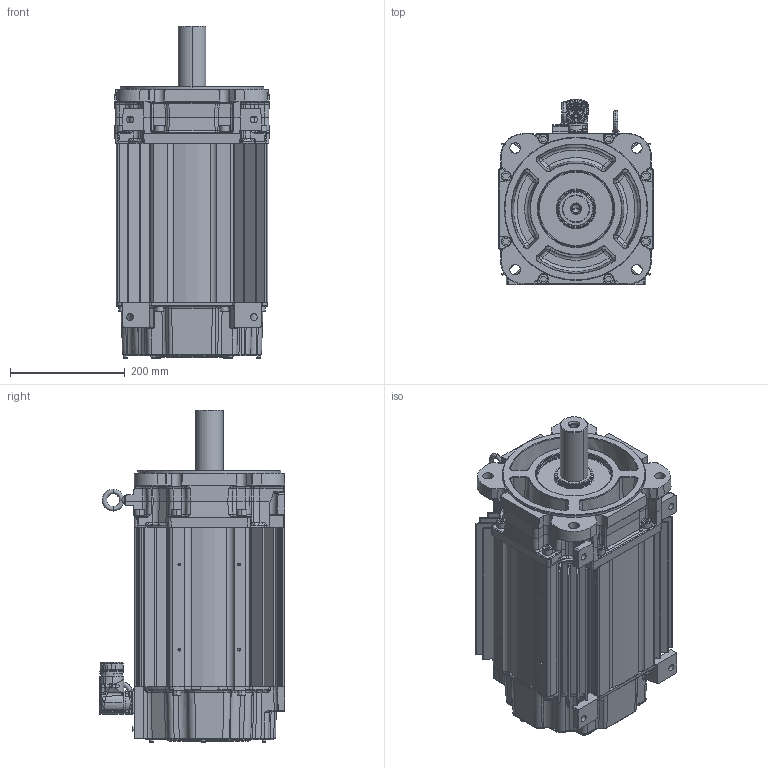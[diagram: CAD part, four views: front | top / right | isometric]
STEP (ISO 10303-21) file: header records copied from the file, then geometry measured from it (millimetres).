
FILE_DESCRIPTION((''),'2;1');
FILE_NAME('10005239751_ASM','2020-01-16T10:10:50',('VThimma'),('Rockwell Automation'),'CREO PARAMETRIC BY PTC INC, 2017380','CREO PARAMETRIC BY PTC INC, 2017380','');
FILE_SCHEMA(('CONFIG_CONTROL_DESIGN','SHAPE_APPEARANCE_LAYERS_GROUPS'));
Products named in the file (20): 10001441946; 10001404634_AF0; 10001404629_AF6; 10001404635_ASM; 10001585735; 10001441999_ASM; 10001439776_KEYLESS; 10001566079_ASM; 10001405269_AF27; 10001405369_ASM; 10001586887; 0002-5004; 10001609981; 10001737030; 10000801000; 10000801001; 10000801002_ASM; 221404-Q12; 10001408124; 10005239751_ASM
Assembly tree (42 placements, depth 4):
  10005239751_ASM
    10001441999_ASM
      10001441946
      10001404635_ASM
        10001404634_AF0
        10001404629_AF6
      10001585735  x8
    10001566079_ASM
      10001439776_KEYLESS
    10001405369_ASM
      10001405269_AF27
    10001586887  x7
    0002-5004  x2
    10001609981
    10001737030
    10000801002_ASM
      10000801000
      10000801001
    221404-Q12  x10
    10001408124
Bounding box: 269.49 x 324.1 x 578.83 mm (x, y, z)
Surface area: 1877523.1 mm2 (no closed solid volume)
Topology: 0 solids, 40 shells, 4476 faces, 11148 edges, 6811 vertices
Faces by surface type: cylinder 1433, plane 1228, bspline 754, torus 547, cone 443, sphere 64, extrusion 7
Entity records: 184705 total; most frequent: CARTESIAN_POINT 53897, ORIENTED_EDGE 17358, DIRECTION 16279, PRESENTATION_STYLE_ASSIGNMENT 12132, STYLED_ITEM 12132, CURVE_STYLE 8690, EDGE_CURVE 8683, AXIS2_PLACEMENT_3D 6389
